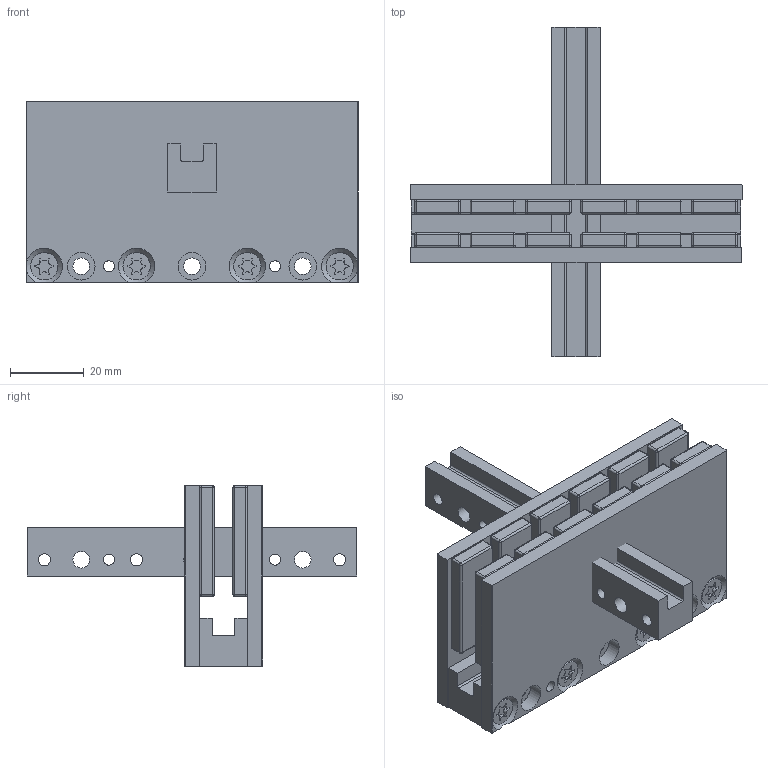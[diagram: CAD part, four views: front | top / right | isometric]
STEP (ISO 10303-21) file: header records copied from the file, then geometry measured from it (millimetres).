
FILE_DESCRIPTION( ( 'STEP AP203' ), '1' );
FILE_NAME( 'ML1600_02-K(90).stp', '2006-09-29T12:33:56', ( ' ' ), ( ' ' ), 'XStep 1.0', ' ', ' ' );
FILE_SCHEMA( ( 'CONFIG_CONTROL_DESIGN) ( )' ) );
Length unit declared in the file: metre
Products named in the file (18): Assem1; Assem2; 1; 2; 3; 4; 5; 6; 7; 8; 9; 10; 11; 12; 13; 14; 15; 16
Bounding box: 89.9 x 89.2 x 49 mm (x, y, z)
Volume: 126294.6 mm3; surface area: 82039.4 mm2
Topology: 46 solids, 46 shells, 1274 faces, 3118 edges, 1744 vertices
Faces by surface type: cylinder 570, plane 444, sphere 192, cone 68
Full cylindrical faces by diameter (mm): 3 x12, 3.3 x8, 4 x16, 4.5 x22, 7.4 x16, 7.5 x12
Entity records: 13486 total; most frequent: DIRECTION 2360, CARTESIAN_POINT 2166, ORIENTED_EDGE 2014, EDGE_CURVE 1007, AXIS2_PLACEMENT_3D 891, VERTEX_POINT 649, LINE 578, VECTOR 578
